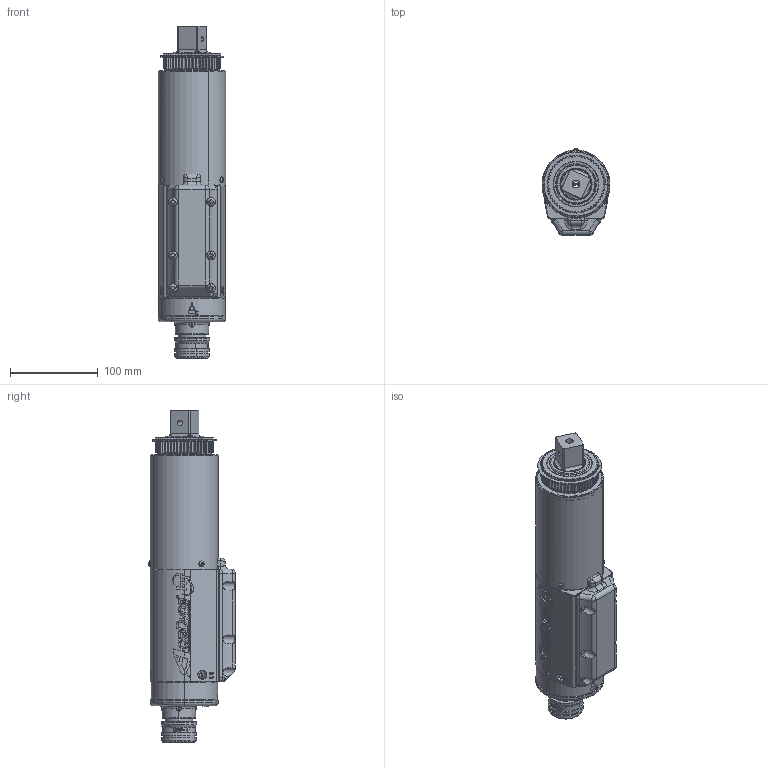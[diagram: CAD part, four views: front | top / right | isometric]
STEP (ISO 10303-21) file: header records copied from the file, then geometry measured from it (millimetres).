
FILE_DESCRIPTION (( 'STEP AP214' ), '1' );
FILE_NAME ('AEF4A773000B.STEP', '2016-04-04T20:42:53', ( 'AIMCO' ), ( '' ), 'SwSTEP 2.0', 'SolidWorks 2016', '' );
FILE_SCHEMA (( 'AUTOMOTIVE_DESIGN' ));
Length unit declared in the file: inch
Products named in the file (1): AEF4A773000B
Bounding box: 77.47 x 98.5 x 378.76 mm (x, y, z)
Surface area: 174773 mm2 (no closed solid volume)
Topology: 0 solids, 66 shells, 1214 faces, 4924 edges, 3594 vertices
Faces by surface type: cylinder 395, plane 352, bspline 227, torus 121, cone 107, sphere 12
Entity records: 131077 total; most frequent: CARTESIAN_POINT 79124, ORIENTED_EDGE 7512, DIRECTION 6300, EDGE_CURVE 4918, VERTEX_POINT 3594, AXIS2_PLACEMENT_3D 2243, VECTOR 1814, LINE 1814
